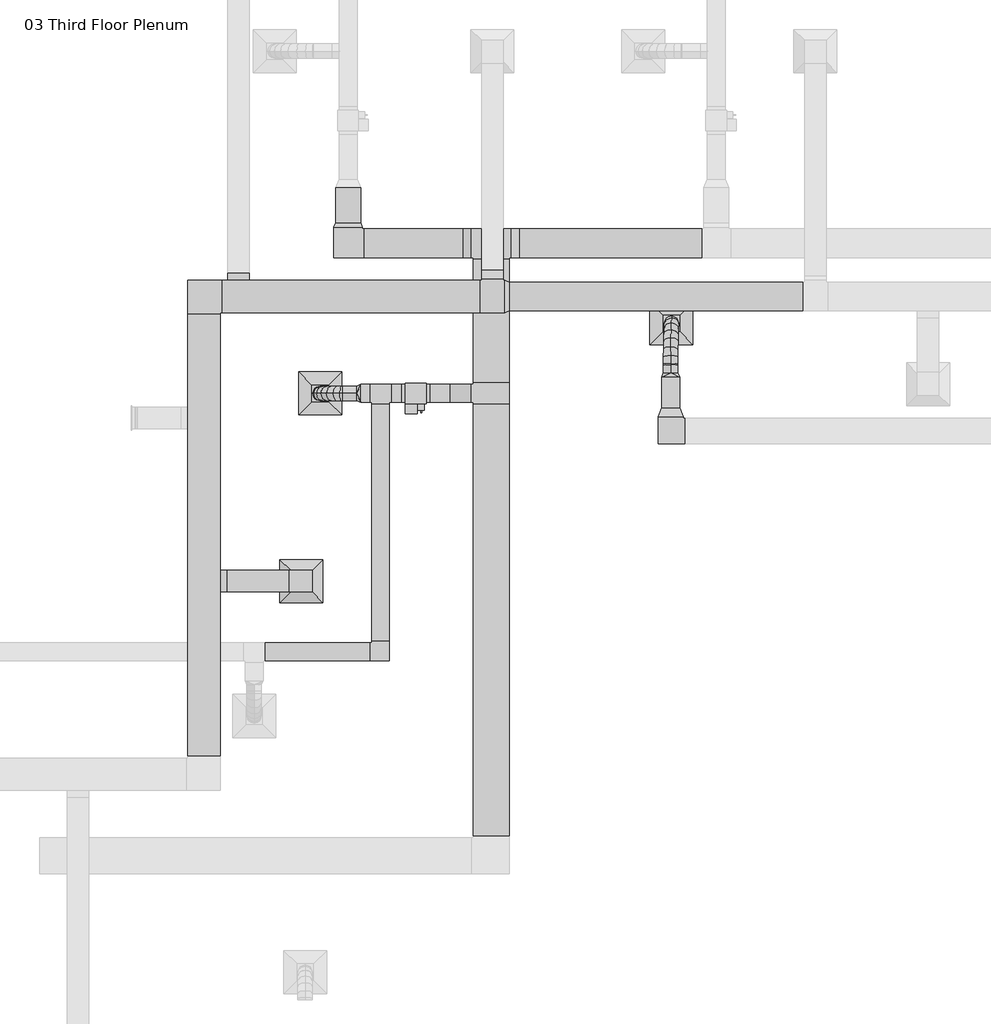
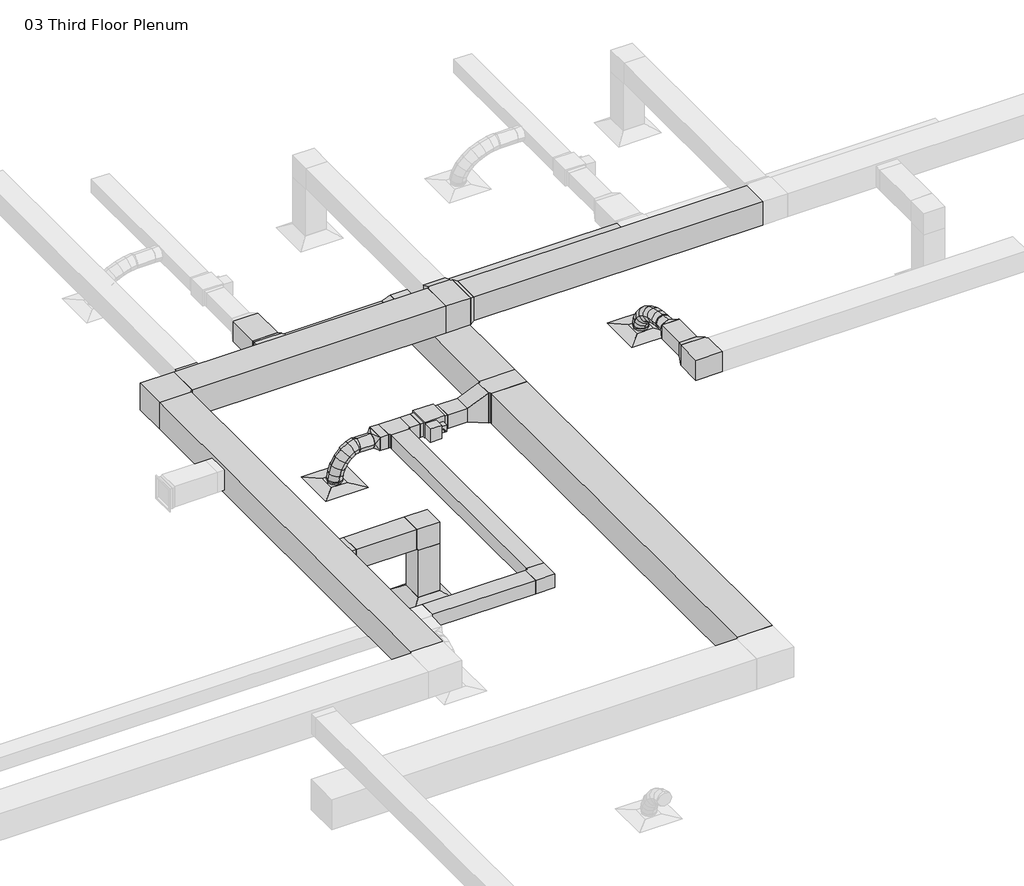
# One storey, part 4 of 9: 20 duct fittings, 20 duct segments, 3 air terminals, 1 proxy.
"""IFC4 building model written with IfcOpenShell, lengths in millimetres."""

from ifc_helpers import new_model, si_unit, point, frame, frame_2d, origin, place, context, project, spatial, polyline, circle_curve, ellipse_curve, trimmed, segment, composite_curve, outline, extrude, transform, mapped, element, save
from ifc_brep_helpers import plane_surface, cylinder_surface, advanced_brep
from components import return_diffuser_d30_returndiffuser_24x24_12x12_connection_ff543d60, supply_diffuser_rectangular_face_round_neck_d30_6390248a, bcn6785_vav_d30_vav1_8c327968, rectangular_elbow_mitered_standard_f09b78ec, rectangular_elbow_mitered_standard_f5573d14, rectangular_elbow_mitered_standard_452c98c7, rectangular_elbow_mitered_standard_3a774ab6, rectangular_elbow_mitered_standard_4ff1c4e8, rectangular_takeoff_standard_087f681d, rectangular_takeoff_standard_e60ef6aa, rectangular_tee_standard_b316833c, rectangular_tee_standard_6ecaa18e, rectangular_tee_standard_fc6ba10c, rectangular_tee_standard_d8c1cff5, rectangular_transition_angle_45_degree_183635ce, rectangular_transition_angle_45_degree_6fcfed4c, rectangular_transition_angle_45_degree_43c6b1ce, rectangular_transition_angle_45_degree_e9be1a90, rectangular_transition_angle_45_degree_58881a6c, rectangular_transition_angle_45_degree_6252f190, rectangular_to_round_transition_angle_45_degree_e9430680

model = new_model("IFC4")

# Units and contexts
model_context = context("Model", 3, world=origin())
ifc_project = project(units=[si_unit("LENGTHUNIT", "METRE", prefix="MILLI")], contexts=[model_context])

# Site, building, storey
site = spatial("IfcSite", under=ifc_project)
building = spatial("IfcBuilding", under=site)
storey = spatial("IfcBuildingStorey", under=building, Name="03 Third Floor Plenum", Elevation=7620.0)

# Air terminals
placement = place(None, origin())
return_diffuser_d30_returndiffuser_24x24_12x12_connection_shape = return_diffuser_d30_returndiffuser_24x24_12x12_connection_ff543d60(model_context)
element("IfcAirTerminal", 1, ObjectType="Return Diffuser : D30_ReturnDiffuser_24x24 12x12 Connection", at=placement, inside=storey, context=model_context, shape_type="MappedRepresentation", body=[
    mapped(return_diffuser_d30_returndiffuser_24x24_12x12_connection_shape, transform((-6594.6439747, 2535.164804, 7620.0), x_axis=(1.0, 0.0, 0.0), y_axis=(0.0, 1.0, 0.0), z_axis=(0.0, 0.0, 1.0))),
])
supply_diffuser_rectangular_face_round_neck_d30_shape = supply_diffuser_rectangular_face_round_neck_d30_6390248a(model_context)
element("IfcAirTerminal", 2, ObjectType="Supply Diffuser - Rectangular Face Round Neck : D30_SupplyDiffuser_24x24 8 Neck", at=placement, inside=storey, context=model_context, shape_type="MappedRepresentation", body=[
    mapped(supply_diffuser_rectangular_face_round_neck_d30_shape, transform((-6329.1542617, 5190.9234175, 7620.0), x_axis=(1.0, 0.0, 0.0), y_axis=(0.0, 1.0, 0.0), z_axis=(0.0, 0.0, 1.0))),
])
element("IfcAirTerminal", 3, ObjectType="Supply Diffuser - Rectangular Face Round Neck : D30_SupplyDiffuser_24x24 8 Neck", at=placement, inside=storey, context=model_context, shape_type="MappedRepresentation", body=[
    mapped(supply_diffuser_rectangular_face_round_neck_d30_shape, transform((-1354.82907, 6185.4921675, 7620.0), x_axis=(1.0, 0.0, 0.0), y_axis=(0.0, 1.0, 0.0), z_axis=(0.0, 0.0, 1.0))),
])

# Proxy
bcn6785_vav_d30_vav1_shape = bcn6785_vav_d30_vav1_8c327968(model_context)
element("IfcBuildingElementProxy", 4, Name="BCN6785_VAV : D30_VAV1", ObjectType="BCN6785_VAV : D30_VAV1", at=placement, inside=storey, context=model_context, shape_type="MappedRepresentation", body=[
    mapped(bcn6785_vav_d30_vav1_shape, transform((-5121.298366, 5190.9101985, 7956.55), x_axis=(1.0, 0.0, 0.0), y_axis=(0.0, 1.0, 0.0), z_axis=(0.0, 0.0, 1.0))),
])

# Duct fittings
rectangular_elbow_mitered_standard_shape = rectangular_elbow_mitered_standard_f09b78ec(model_context)
element("IfcDuctFitting", 5, ObjectType="Rectangular Elbow - Mitered : Standard", at=placement, inside=storey, context=model_context, shape_type="MappedRepresentation", body=[
    mapped(rectangular_elbow_mitered_standard_shape, transform((-5473.723366, 1533.3101985, 8077.2), x_axis=(1.0, 0.0, 0.0), y_axis=(0.0, 1.0, 0.0), z_axis=(0.0, 0.0, 1.0))),
])
rectangular_elbow_mitered_standard_2_shape = rectangular_elbow_mitered_standard_f5573d14(model_context)
element("IfcDuctFitting", 6, ObjectType="Rectangular Elbow - Mitered : Standard", at=placement, inside=storey, context=model_context, shape_type="MappedRepresentation", body=[
    mapped(rectangular_elbow_mitered_standard_2_shape, transform((-5932.510866, 7316.8809317, 8077.2), x_axis=(0.0, -1.0, 0.0), y_axis=(1.0, 0.0, 0.0), z_axis=(0.0, 0.0, 1.0))),
])
rectangular_elbow_mitered_standard_3_shape = rectangular_elbow_mitered_standard_452c98c7(model_context)
element("IfcDuctFitting", 7, ObjectType="Rectangular Elbow - Mitered : Standard", at=placement, inside=storey, context=model_context, shape_type="MappedRepresentation", body=[
    mapped(rectangular_elbow_mitered_standard_3_shape, transform((-1367.52907, 4659.6636656, 8077.2), x_axis=(0.0, -1.0, 0.0), y_axis=(1.0, 0.0, 0.0), z_axis=(0.0, 0.0, 1.0))),
])
rectangular_elbow_mitered_standard_4_shape = rectangular_elbow_mitered_standard_3a774ab6(model_context)
element("IfcDuctFitting", 8, ObjectType="Rectangular Elbow - Mitered : Standard", at=placement, inside=storey, context=model_context, shape_type="MappedRepresentation", body=[
    mapped(rectangular_elbow_mitered_standard_4_shape, transform((-7972.5142705, 6562.5101985, 8610.6), x_axis=(-1.0, 0.0, 0.0), y_axis=(0.0, -1.0, 0.0), z_axis=(0.0, 0.0, 1.0))),
])
rectangular_elbow_mitered_standard_5_shape = rectangular_elbow_mitered_standard_4ff1c4e8(model_context)
element("IfcDuctFitting", 9, ObjectType="Rectangular Elbow - Mitered : Standard", at=placement, inside=storey, context=model_context, shape_type="MappedRepresentation", body=[
    mapped(rectangular_elbow_mitered_standard_5_shape, transform((-6594.6439747, 2535.164804, 8610.6), x_axis=(0.0, 0.0, 1.0), y_axis=(-1.0, 0.0, 0.0), z_axis=(0.0, -1.0, 0.0))),
])
rectangular_takeoff_standard_shape = rectangular_takeoff_standard_087f681d(model_context)
element("IfcDuctFitting", 10, ObjectType="Rectangular Takeoff : Standard", at=placement, inside=storey, context=model_context, shape_type="MappedRepresentation", body=[
    mapped(rectangular_takeoff_standard_shape, transform((-7483.9216887, 6791.1101985, 8610.6), x_axis=(0.0, 1.0, 0.0), y_axis=(1.0, 0.0, 0.0), z_axis=(0.0, 0.0, -1.0))),
])
rectangular_takeoff_standard_2_shape = rectangular_takeoff_standard_e60ef6aa(model_context)
element("IfcDuctFitting", 11, ObjectType="Rectangular Takeoff : Standard", at=placement, inside=storey, context=model_context, shape_type="MappedRepresentation", body=[
    mapped(rectangular_takeoff_standard_2_shape, transform((-7743.9142705, 2535.164804, 8610.6), x_axis=(1.0, 0.0, 0.0), y_axis=(0.0, -1.0, 0.0), z_axis=(0.0, 0.0, -1.0))),
])
rectangular_tee_standard_shape = rectangular_tee_standard_b316833c(model_context)
element("IfcDuctFitting", 12, ObjectType="Rectangular Tee : Standard", at=placement, inside=storey, context=model_context, shape_type="MappedRepresentation", body=[
    mapped(rectangular_tee_standard_shape, transform((-5473.723366, 5190.9101985, 8077.2), x_axis=(1.0, 0.0, 0.0), y_axis=(0.0, 1.0, 0.0), z_axis=(0.0, 0.0, 1.0))),
])
rectangular_tee_standard_2_shape = rectangular_tee_standard_6ecaa18e(model_context)
element("IfcDuctFitting", 13, ObjectType="Rectangular Tee : Standard", at=placement, inside=storey, context=model_context, shape_type="MappedRepresentation", body=[
    mapped(rectangular_tee_standard_2_shape, transform((-3908.2167617, 7316.8809317, 8077.2), x_axis=(1.0, 0.0, 0.0), y_axis=(0.0, 1.0, 0.0), z_axis=(0.0, 0.0, 1.0))),
])
rectangular_tee_standard_3_shape = rectangular_tee_standard_fc6ba10c(model_context)
element("IfcDuctFitting", 14, ObjectType="Rectangular Tee : Standard", at=placement, inside=storey, context=model_context, shape_type="MappedRepresentation", body=[
    mapped(rectangular_tee_standard_3_shape, transform((-3908.2167617, 5190.9101985, 8077.2), x_axis=(0.0, -1.0, 0.0), y_axis=(1.0, 0.0, 0.0), z_axis=(0.0, 0.0, 1.0))),
])
rectangular_tee_standard_4_shape = rectangular_tee_standard_d8c1cff5(model_context)
element("IfcDuctFitting", 15, ObjectType="Rectangular Tee : Standard", at=placement, inside=storey, context=model_context, shape_type="MappedRepresentation", body=[
    mapped(rectangular_tee_standard_4_shape, transform((-3890.7542617, 6562.5101985, 8610.6), x_axis=(-1.0, 0.0, 0.0), y_axis=(0.0, -1.0, 0.0), z_axis=(0.0, 0.0, 1.0))),
])
rectangular_transition_angle_45_degree_shape = rectangular_transition_angle_45_degree_183635ce(model_context)
element("IfcDuctFitting", 16, ObjectType="Rectangular Transition - Angle : 45 Degree", at=placement, inside=storey, context=model_context, shape_type="MappedRepresentation", body=[
    mapped(rectangular_transition_angle_45_degree_shape, transform((-1367.52907, 4862.8636656, 8077.2), x_axis=(0.0, 1.0, 0.0), y_axis=(-1.0, 0.0, 0.0), z_axis=(0.0, 0.0, 1.0))),
])
rectangular_transition_angle_45_degree_2_shape = rectangular_transition_angle_45_degree_6fcfed4c(model_context)
element("IfcDuctFitting", 17, ObjectType="Rectangular Transition - Angle : 45 Degree", at=placement, inside=storey, context=model_context, shape_type="MappedRepresentation", body=[
    mapped(rectangular_transition_angle_45_degree_2_shape, transform((-5932.510866, 7545.4809317, 8077.2), x_axis=(0.0, 1.0, 0.0), y_axis=(-1.0, 0.0, 0.0), z_axis=(0.0, 0.0, 1.0))),
])
rectangular_transition_angle_45_degree_3_shape = rectangular_transition_angle_45_degree_43c6b1ce(model_context)
element("IfcDuctFitting", 18, ObjectType="Rectangular Transition - Angle : 45 Degree", at=placement, inside=storey, context=model_context, shape_type="MappedRepresentation", body=[
    mapped(rectangular_transition_angle_45_degree_3_shape, transform((-4187.6167617, 7316.8809317, 8077.2), x_axis=(-1.0, 0.0, 0.0), y_axis=(0.0, -1.0, 0.0), z_axis=(0.0, 0.0, 1.0))),
])
element("IfcDuctFitting", 19, ObjectType="Rectangular Transition - Angle : 45 Degree", at=placement, inside=storey, context=model_context, shape_type="MappedRepresentation", body=[
    mapped(rectangular_transition_angle_45_degree_3_shape, transform((-3628.8167617, 7316.8809317, 8077.2), x_axis=(1.0, 0.0, 0.0), y_axis=(0.0, 1.0, 0.0), z_axis=(0.0, 0.0, 1.0))),
])
rectangular_transition_angle_45_degree_4_shape = rectangular_transition_angle_45_degree_e9be1a90(model_context)
element("IfcDuctFitting", 20, ObjectType="Rectangular Transition - Angle : 45 Degree", at=placement, inside=storey, context=model_context, shape_type="MappedRepresentation", body=[
    mapped(rectangular_transition_angle_45_degree_4_shape, transform((-4187.6167617, 5190.9101985, 8077.2), x_axis=(-1.0, 0.0, 0.0), y_axis=(0.0, -1.0, 0.0), z_axis=(0.0, 0.0, 1.0))),
])
rectangular_transition_angle_45_degree_5_shape = rectangular_transition_angle_45_degree_58881a6c(model_context)
element("IfcDuctFitting", 21, ObjectType="Rectangular Transition - Angle : 45 Degree", at=placement, inside=storey, context=model_context, shape_type="MappedRepresentation", body=[
    mapped(rectangular_transition_angle_45_degree_5_shape, transform((-3890.7542617, 6816.5101985, 8610.6), x_axis=(0.0, 1.0, 0.0), y_axis=(-1.0, 0.0, 0.0), z_axis=(0.0, 0.0, 1.0))),
])
rectangular_transition_angle_45_degree_6_shape = rectangular_transition_angle_45_degree_6252f190(model_context)
element("IfcDuctFitting", 22, ObjectType="Rectangular Transition - Angle : 45 Degree", at=placement, inside=storey, context=model_context, shape_type="MappedRepresentation", body=[
    mapped(rectangular_transition_angle_45_degree_6_shape, transform((-3712.9542617, 6562.5101985, 8610.6), x_axis=(1.0, 0.0, 0.0), y_axis=(0.0, 1.0, 0.0), z_axis=(0.0, 0.0, 1.0))),
])
rectangular_to_round_transition_angle_45_degree_shape = rectangular_to_round_transition_angle_45_degree_e9430680(model_context)
element("IfcDuctFitting", 23, ObjectType="Rectangular to Round Transition - Angle : 45 Degree", at=placement, inside=storey, context=model_context, shape_type="MappedRepresentation", body=[
    mapped(rectangular_to_round_transition_angle_45_degree_shape, transform((-5749.948366, 5190.9101985, 8077.2), x_axis=(-1.0, 0.0, 0.0), y_axis=(0.0, -1.0, 0.0), z_axis=(0.0, 0.0, 1.0))),
])
element("IfcDuctFitting", 24, ObjectType="Rectangular to Round Transition - Angle : 45 Degree", at=placement, inside=storey, context=model_context, shape_type="MappedRepresentation", body=[
    mapped(rectangular_to_round_transition_angle_45_degree_shape, transform((-1367.52907, 5421.6636656, 8077.2), x_axis=(0.0, 1.0, 0.0), y_axis=(-1.0, 0.0, 0.0), z_axis=(0.0, 0.0, 1.0))),
])

# Duct segments
element("IfcDuctSegment", 25, ObjectType="Flex - Round", at=placement, inside=storey, context=model_context, shape_type="AdvancedBrep", body=[
    advanced_brep(
    [(-6014.4693904, 5089.3101985, 8077.2), (-6014.4693904, 5190.9101985, 7975.6), (-6014.4693904, 5292.5101985, 8077.2), (-6014.4693904, 5190.9101985, 8178.8), (-6036.1583736, 5089.3101985, 8077.2), (-6021.4165161, 5190.9101985, 7975.6), (-6036.1567724, 5292.5101985, 8077.2), (-6050.8986299, 5190.9101985, 8178.8), (-6329.157635, 5089.3234175, 7673.975), (-6430.7542616, 5190.9267909, 7673.975), (-6329.1508883, 5292.5234174, 7673.975), (-6227.5542617, 5190.9200441, 7673.975), (-6096.9812686, 5089.3111777, 8059.1709905), (-6053.9833624, 5190.9107228, 7965.9465959), (-6096.9768132, 5292.5111777, 8059.1718365), (-6139.9747194, 5190.9116326, 8152.396231), (-6171.8331166, 5089.3136257, 8010.5469164), (-6105.2605505, 5190.9123998, 7932.6367197), (-6171.8267271, 5292.5136256, 8010.5490188), (-6238.3992932, 5190.9148515, 8088.4592155), (-6235.7510675, 5089.3168081, 7939.5216216), (-6153.2427601, 5190.9147888, 7879.3191379), (-6235.7438502, 5292.5168079, 7939.5246439), (-6318.2521576, 5190.9188272, 7999.7271277), (-6285.4607107, 5089.3199904, 7854.2888262), (-6192.8547337, 5190.9173247, 7811.3999369), (-6285.4534441, 5292.5199903, 7854.291933), (-6378.0594212, 5190.922656, 7897.1808223), (-6317.6876871, 5089.3224384, 7763.0420482), (-6218.6614451, 5190.9192849, 7738.3313612), (-6317.6807193, 5292.5224382, 7763.0443088), (-6416.7069613, 5190.9255917, 7787.7549958), (-6329.157635, 5089.3234175, 7686.9513296), (-6227.5542617, 5190.9200441, 7679.3371258), (-6329.1508883, 5292.5234174, 7686.952124), (-6430.7542616, 5190.9267909, 7694.5663278)],
    [
        (0, 1, circle_curve(frame((-6014.4693904, 5190.9101985, 8077.2), z_axis=(1.0, 0.0, 0.0), x_axis=(0.0, -1.0, 0.0)), 101.6)),
        (1, 2, circle_curve(frame((-6014.4693904, 5190.9101985, 8077.2), z_axis=(1.0, 0.0, 0.0), x_axis=(0.0, -1.0, 0.0)), 101.6)),
        (2, 3, circle_curve(frame((-6014.4693904, 5190.9101985, 8077.2), z_axis=(1.0, 0.0, 0.0), x_axis=(0.0, -1.0, 0.0)), 101.6)),
        (3, 0, circle_curve(frame((-6014.4693904, 5190.9101985, 8077.2), z_axis=(1.0, 0.0, 0.0), x_axis=(0.0, -1.0, 0.0)), 101.6)),
        (0, 4),
        (4, 5, ellipse_curve(frame((-6036.157573, 5190.9101985, 8077.2), z_axis=(0.9896378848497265, -7.798530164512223e-06, 0.14358571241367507), x_axis=(0.14358571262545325, 5.374992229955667e-05, -0.9896378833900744)), 102.6638143, 101.6)),
        (5, 1),
        (5, 6, ellipse_curve(frame((-6036.157573, 5190.9101985, 8077.2), z_axis=(0.9896378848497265, -7.798530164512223e-06, 0.14358571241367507), x_axis=(0.14358571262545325, 5.374992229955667e-05, -0.9896378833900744)), 102.6638143, 101.6)),
        (6, 2),
        (6, 7, ellipse_curve(frame((-6036.157573, 5190.9101985, 8077.2), z_axis=(0.9896378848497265, -7.798530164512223e-06, 0.14358571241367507), x_axis=(0.14358571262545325, 5.374992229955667e-05, -0.9896378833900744)), 102.6638143, 101.6)),
        (7, 3),
        (7, 4, ellipse_curve(frame((-6036.157573, 5190.9101985, 8077.2), z_axis=(0.9896378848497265, -7.798530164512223e-06, 0.14358571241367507), x_axis=(0.14358571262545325, 5.374992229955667e-05, -0.9896378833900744)), 102.6638143, 101.6)),
        (8, 9, circle_curve(frame((-6329.1542617, 5190.9234175, 7673.975), z_axis=(0.0, 0.0, -1.0), x_axis=(-3.320253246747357e-05, -0.9999999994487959, 0.0)), 101.6)),
        (9, 10, circle_curve(frame((-6329.1542617, 5190.9234175, 7673.975), z_axis=(0.0, 0.0, -1.0), x_axis=(-3.320253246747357e-05, -0.9999999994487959, 0.0)), 101.6)),
        (10, 11, circle_curve(frame((-6329.1542617, 5190.9234175, 7673.975), z_axis=(0.0, 0.0, -1.0), x_axis=(-3.320253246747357e-05, -0.9999999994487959, 0.0)), 101.6)),
        (11, 8, circle_curve(frame((-6329.1542617, 5190.9234175, 7673.975), z_axis=(0.0, 0.0, -1.0), x_axis=(-3.320253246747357e-05, -0.9999999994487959, 0.0)), 101.6)),
        (4, 12),
        (12, 13, ellipse_curve(frame((-6096.9790409, 5190.9111777, 8059.1714135), z_axis=(0.9080748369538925, -2.165461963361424e-05, 0.4188079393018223), x_axis=(0.4188079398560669, 4.178745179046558e-05, -0.9080748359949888)), 102.6620425, 101.6)),
        (13, 5),
        (13, 14, ellipse_curve(frame((-6096.9790409, 5190.9111777, 8059.1714135), z_axis=(0.9080748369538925, -2.165461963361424e-05, 0.4188079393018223), x_axis=(0.4188079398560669, 4.178745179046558e-05, -0.9080748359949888)), 102.6620425, 101.6)),
        (14, 6),
        (14, 15, ellipse_curve(frame((-6096.9790409, 5190.9111777, 8059.1714135), z_axis=(0.9080748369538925, -2.165461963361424e-05, 0.4188079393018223), x_axis=(0.4188079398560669, 4.178745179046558e-05, -0.9080748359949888)), 102.6620425, 101.6)),
        (15, 7),
        (15, 12, ellipse_curve(frame((-6096.9790409, 5190.9111777, 8059.1714135), z_axis=(0.9080748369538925, -2.165461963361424e-05, 0.4188079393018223), x_axis=(0.4188079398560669, 4.178745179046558e-05, -0.9080748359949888)), 102.6620425, 101.6)),
        (12, 16),
        (16, 17, ellipse_curve(frame((-6171.8299218, 5190.9136257, 8010.5479676), z_axis=(0.7602764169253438, -3.062773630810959e-05, 0.6495996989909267), x_axis=(0.6495996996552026, 2.2511495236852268e-05, -0.7602764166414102)), 102.477528, 101.6)),
        (17, 13),
        (17, 18, ellipse_curve(frame((-6171.8299218, 5190.9136257, 8010.5479676), z_axis=(0.7602764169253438, -3.062773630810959e-05, 0.6495996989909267), x_axis=(0.6495996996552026, 2.2511495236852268e-05, -0.7602764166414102)), 102.477528, 101.6)),
        (18, 14),
        (18, 19, ellipse_curve(frame((-6171.8299218, 5190.9136257, 8010.5479676), z_axis=(0.7602764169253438, -3.062773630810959e-05, 0.6495996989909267), x_axis=(0.6495996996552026, 2.2511495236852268e-05, -0.7602764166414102)), 102.477528, 101.6)),
        (19, 15),
        (19, 16, ellipse_curve(frame((-6171.8299218, 5190.9136257, 8010.5479676), z_axis=(0.7602764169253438, -3.062773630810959e-05, 0.6495996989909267), x_axis=(0.6495996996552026, 2.2511495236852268e-05, -0.7602764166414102)), 102.477528, 101.6)),
        (16, 20),
        (20, 21, ellipse_curve(frame((-6235.7474588, 5190.916808, 7939.5231328), z_axis=(0.589455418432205, -3.2951433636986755e-05, 0.807800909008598), x_axis=(0.8078009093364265, -5.149231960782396e-06, -0.5894554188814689)), 102.1349418, 101.6)),
        (21, 17),
        (21, 22, ellipse_curve(frame((-6235.7474588, 5190.916808, 7939.5231328), z_axis=(0.589455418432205, -3.2951433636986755e-05, 0.807800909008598), x_axis=(0.8078009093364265, -5.149231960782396e-06, -0.5894554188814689)), 102.1349418, 101.6)),
        (22, 18),
        (22, 23, ellipse_curve(frame((-6235.7474588, 5190.916808, 7939.5231328), z_axis=(0.589455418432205, -3.2951433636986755e-05, 0.807800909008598), x_axis=(0.8078009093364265, -5.149231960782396e-06, -0.5894554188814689)), 102.1349418, 101.6)),
        (23, 19),
        (23, 20, ellipse_curve(frame((-6235.7474588, 5190.916808, 7939.5231328), z_axis=(0.589455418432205, -3.2951433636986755e-05, 0.807800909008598), x_axis=(0.8078009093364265, -5.149231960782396e-06, -0.5894554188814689)), 102.1349418, 101.6)),
        (20, 24),
        (24, 25, ellipse_curve(frame((-6285.4570774, 5190.9199903, 7854.2903796), z_axis=(0.42027677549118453, -2.8902683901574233e-05, 0.9073959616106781), x_axis=(0.9073959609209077, -3.696100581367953e-05, -0.4202767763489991)), 102.0528497, 101.6)),
        (25, 21),
        (25, 26, ellipse_curve(frame((-6285.4570774, 5190.9199903, 7854.2903796), z_axis=(0.42027677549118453, -2.8902683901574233e-05, 0.9073959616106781), x_axis=(0.9073959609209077, -3.696100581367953e-05, -0.4202767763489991)), 102.0528497, 101.6)),
        (26, 22),
        (26, 27, ellipse_curve(frame((-6285.4570774, 5190.9199903, 7854.2903796), z_axis=(0.42027677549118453, -2.8902683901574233e-05, 0.9073959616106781), x_axis=(0.9073959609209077, -3.696100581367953e-05, -0.4202767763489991)), 102.0528497, 101.6)),
        (27, 23),
        (27, 24, ellipse_curve(frame((-6285.4570774, 5190.9199903, 7854.2903796), z_axis=(0.42027677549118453, -2.8902683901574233e-05, 0.9073959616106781), x_axis=(0.9073959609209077, -3.696100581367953e-05, -0.4202767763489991)), 102.0528497, 101.6)),
        (24, 28),
        (28, 29, ellipse_curve(frame((-6317.6842032, 5190.9224383, 7763.0431785), z_axis=(0.24213102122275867, -1.9096545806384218e-05, 0.9702435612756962), x_axis=(0.9702435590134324, -6.630247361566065e-05, -0.2421310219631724)), 102.0596911, 101.6)),
        (29, 25),
        (29, 30, ellipse_curve(frame((-6317.6842032, 5190.9224383, 7763.0431785), z_axis=(0.24213102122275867, -1.9096545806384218e-05, 0.9702435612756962), x_axis=(0.9702435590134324, -6.630247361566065e-05, -0.2421310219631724)), 102.0596911, 101.6)),
        (30, 26),
        (30, 31, ellipse_curve(frame((-6317.6842032, 5190.9224383, 7763.0431785), z_axis=(0.24213102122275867, -1.9096545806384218e-05, 0.9702435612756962), x_axis=(0.9702435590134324, -6.630247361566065e-05, -0.2421310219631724)), 102.0596911, 101.6)),
        (31, 27),
        (31, 28, ellipse_curve(frame((-6317.6842032, 5190.9224383, 7763.0431785), z_axis=(0.24213102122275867, -1.9096545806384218e-05, 0.9702435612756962), x_axis=(0.9702435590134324, -6.630247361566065e-05, -0.2421310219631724)), 102.0596911, 101.6)),
        (28, 32),
        (32, 33, ellipse_curve(frame((-6329.1542617, 5190.9234175, 7686.9517268), z_axis=(0.07473725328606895, -6.380206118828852e-06, 0.9972032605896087), x_axis=(0.9972032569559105, -8.51297317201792e-05, -0.07473725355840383)), 101.8849456, 101.6)),
        (33, 29),
        (33, 34, ellipse_curve(frame((-6329.1542617, 5190.9234175, 7686.9517268), z_axis=(0.07473725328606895, -6.380206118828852e-06, 0.9972032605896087), x_axis=(0.9972032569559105, -8.51297317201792e-05, -0.07473725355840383)), 101.8849456, 101.6)),
        (34, 30),
        (34, 35, ellipse_curve(frame((-6329.1542617, 5190.9234175, 7686.9517268), z_axis=(0.07473725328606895, -6.380206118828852e-06, 0.9972032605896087), x_axis=(0.9972032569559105, -8.51297317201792e-05, -0.07473725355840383)), 101.8849456, 101.6)),
        (35, 31),
        (35, 32, ellipse_curve(frame((-6329.1542617, 5190.9234175, 7686.9517268), z_axis=(0.07473725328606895, -6.380206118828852e-06, 0.9972032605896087), x_axis=(0.9972032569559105, -8.51297317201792e-05, -0.07473725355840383)), 101.8849456, 101.6)),
        (32, 8),
        (11, 33),
        (10, 34),
        (9, 35),
    ],
    [
        plane_surface(frame((-6014.4693904, 5190.9101985, 7975.6), z_axis=(1.0, 0.0, 0.0), x_axis=(0.0, -1.0, 0.0))),
        cylinder_surface(frame((-6014.4693904, 5190.9101985, 8077.2), z_axis=(1.0, 0.0, 0.0), x_axis=(0.0, -1.0, 0.0)), 101.6),
        plane_surface(frame((-6329.1542617, 5089.3234175, 7673.975), z_axis=(0.0, 0.0, -1.0), x_axis=(-1.0, 0.0, 0.0))),
        cylinder_surface(frame((-6036.157573, 5190.9101985, 8077.2), z_axis=(0.9587662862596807, -1.5435441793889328e-05, 0.284195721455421), x_axis=(-1.5435441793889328e-05, -0.9999999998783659, -2.2395150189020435e-06)), 101.6),
        cylinder_surface(frame((-6096.9790409, 5190.9111777, 8059.1714135), z_axis=(0.8385952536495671, -2.742576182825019e-05, 0.5447549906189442), x_axis=(-2.7603929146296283e-05, -0.9999999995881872, -7.851672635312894e-06)), 101.6),
        cylinder_surface(frame((-6171.8299218, 5190.9136257, 8010.5479676), z_axis=(0.6689368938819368, -3.330517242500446e-05, 0.7433191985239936), x_axis=(-3.4508266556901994e-05, -0.999999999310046, -1.3750915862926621e-05)), 101.6),
        cylinder_surface(frame((-6235.7474588, 5190.916808, 7939.5231328), z_axis=(0.5037992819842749, -3.225252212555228e-05, 0.8638207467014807), x_axis=(-3.627939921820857e-05, -0.999999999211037, -1.617810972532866e-05)), 101.6),
        cylinder_surface(frame((-6285.4570774, 5190.9199903, 7854.2903796), z_axis=(0.3330243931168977, -2.5296339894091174e-05, 0.9429182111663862), x_axis=(-3.541812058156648e-05, -0.9999999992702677, -1.4318571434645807e-05)), 101.6),
        cylinder_surface(frame((-6317.6842032, 5190.9224383, 7763.0431785), z_axis=(0.1490564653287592, -1.2724724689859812e-05, 0.9888286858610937), x_axis=(-3.378529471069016e-05, -0.9999999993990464, -7.775672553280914e-06)), 101.6),
        cylinder_surface(frame((-6329.1542617, 5190.9234175, 7686.9517268), z_axis=(0.0, 0.0, 1.0), x_axis=(-3.320253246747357e-05, -0.9999999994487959, 0.0)), 101.6),
    ],
    [
        (0, [[1, 2, 3, 4]]),
        (1, [[-1, 5, 6, 7]]),
        (1, [[-2, -7, 8, 9]]),
        (1, [[-3, -9, 10, 11]]),
        (1, [[-4, -11, 12, -5]]),
        (2, [[13, 14, 15, 16]]),
        (3, [[-6, 17, 18, 19]]),
        (3, [[-8, -19, 20, 21]]),
        (3, [[-10, -21, 22, 23]]),
        (3, [[-12, -23, 24, -17]]),
        (4, [[-18, 25, 26, 27]]),
        (4, [[-20, -27, 28, 29]]),
        (4, [[-22, -29, 30, 31]]),
        (4, [[-24, -31, 32, -25]]),
        (5, [[-26, 33, 34, 35]]),
        (5, [[-28, -35, 36, 37]]),
        (5, [[-30, -37, 38, 39]]),
        (5, [[-32, -39, 40, -33]]),
        (6, [[-34, 41, 42, 43]]),
        (6, [[-36, -43, 44, 45]]),
        (6, [[-38, -45, 46, 47]]),
        (6, [[-40, -47, 48, -41]]),
        (7, [[-42, 49, 50, 51]]),
        (7, [[-44, -51, 52, 53]]),
        (7, [[-46, -53, 54, 55]]),
        (7, [[-48, -55, 56, -49]]),
        (8, [[-50, 57, 58, 59]]),
        (8, [[-52, -59, 60, 61]]),
        (8, [[-54, -61, 62, 63]]),
        (8, [[-56, -63, 64, -57]]),
        (9, [[-58, 65, -16, 66]]),
        (9, [[-60, -66, -15, 67]]),
        (9, [[-62, -67, -14, 68]]),
        (9, [[-64, -68, -13, -65]]),
    ],
),
])
element("IfcDuctSegment", 26, ObjectType="Flex - Round", at=placement, inside=storey, context=model_context, shape_type="AdvancedBrep", body=[
    advanced_brep(
    [(-1469.12907, 5599.4636656, 8077.2), (-1367.52907, 5599.4636656, 7975.6), (-1265.92907, 5599.4636656, 8077.2), (-1367.52907, 5599.4636656, 8178.8), (-1469.12907, 5609.167919, 8077.2), (-1367.52907, 5603.6788258, 7975.6), (-1265.92907, 5608.4389182, 8077.2), (-1367.52907, 5613.9280114, 8178.8), (-1456.4018157, 6187.8453191, 7673.975), (-1352.4759184, 6287.0649132, 7673.975), (-1253.2563242, 6183.1390159, 7673.975), (-1357.1822216, 6083.9194217, 7673.975), (-1468.4198301, 5707.7611195, 8067.2286374), (-1366.9158959, 5688.917673, 7966.9792488), (-1265.2313128, 5705.4358756, 8067.3900757), (-1366.7352469, 5724.2793221, 8167.6394643), (-1466.5942297, 5821.2220305, 8038.4862765), (-1365.3324897, 5787.3262406, 7942.0500063), (-1263.4283417, 5817.4903774, 8039.0039918), (-1364.6900818, 5851.3861674, 8135.4402621), (-1464.1039831, 5931.9675657, 7992.7357134), (-1363.1687228, 5883.5526607, 7902.2974971), (-1260.9570723, 5927.3919649, 7993.6020757), (-1361.8923326, 5975.8068698, 8084.040292), (-1461.3955377, 6032.0042118, 7931.684367), (-1360.8786161, 5968.1379334, 7850.6759666), (-1258.2596868, 6027.020112, 7932.800032), (-1358.7766084, 6090.8863904, 8013.8084325), (-1458.9140094, 6113.313661, 7857.045612), (-1358.925392, 6032.1370351, 7791.9274038), (-1255.779699, 6108.2790873, 7858.2076099), (-1355.7683165, 6189.4557132, 7923.325818), (-1457.102731, 6167.9020349, 7770.5463085), (-1357.629355, 6071.1970443, 7730.0339393), (-1253.962406, 6163.0487302, 7771.4210725), (-1353.435782, 6259.7537208, 7811.9334417), (-1456.4018157, 6187.8453191, 7694.3621843), (-1357.1822216, 6083.9194217, 7681.4339606), (-1253.2563242, 6183.1390159, 7694.6753967), (-1352.4759184, 6287.0649132, 7707.6036204)],
    [
        (0, 1, circle_curve(frame((-1367.52907, 5599.4636656, 8077.2), z_axis=(0.0, -1.0, 0.0), x_axis=(-1.0, 0.0, 0.0)), 101.6)),
        (1, 2, circle_curve(frame((-1367.52907, 5599.4636656, 8077.2), z_axis=(0.0, -1.0, 0.0), x_axis=(-1.0, 0.0, 0.0)), 101.6)),
        (2, 3, circle_curve(frame((-1367.52907, 5599.4636656, 8077.2), z_axis=(0.0, -1.0, 0.0), x_axis=(-1.0, 0.0, 0.0)), 101.6)),
        (3, 0, circle_curve(frame((-1367.52907, 5599.4636656, 8077.2), z_axis=(0.0, -1.0, 0.0), x_axis=(-1.0, 0.0, 0.0)), 101.6)),
        (0, 4),
        (4, 5, ellipse_curve(frame((-1367.52907, 5608.8034186, 8077.2), z_axis=(-0.0035830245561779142, -0.9987239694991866, 0.05037454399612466), x_axis=(0.07085790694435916, -0.05050180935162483, -0.9962071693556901)), 101.7298103, 101.6)),
        (5, 1),
        (5, 6, ellipse_curve(frame((-1367.52907, 5608.8034186, 8077.2), z_axis=(-0.0035830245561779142, -0.9987239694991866, 0.05037454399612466), x_axis=(0.07085790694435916, -0.05050180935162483, -0.9962071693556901)), 101.7298103, 101.6)),
        (6, 2),
        (6, 7, ellipse_curve(frame((-1367.52907, 5608.8034186, 8077.2), z_axis=(-0.0035830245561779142, -0.9987239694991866, 0.05037454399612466), x_axis=(0.07085790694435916, -0.05050180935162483, -0.9962071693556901)), 101.7298103, 101.6)),
        (7, 3),
        (7, 4, ellipse_curve(frame((-1367.52907, 5608.8034186, 8077.2), z_axis=(-0.0035830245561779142, -0.9987239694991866, 0.05037454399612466), x_axis=(0.07085790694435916, -0.05050180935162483, -0.9962071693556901)), 101.7298103, 101.6)),
        (8, 9, circle_curve(frame((-1354.82907, 6185.4921675, 7673.975), z_axis=(0.0, 0.0, -1.0), x_axis=(-0.9997317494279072, 0.02316094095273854, 0.0)), 101.6)),
        (9, 10, circle_curve(frame((-1354.82907, 6185.4921675, 7673.975), z_axis=(0.0, 0.0, -1.0), x_axis=(-0.9997317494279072, 0.02316094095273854, 0.0)), 101.6)),
        (10, 11, circle_curve(frame((-1354.82907, 6185.4921675, 7673.975), z_axis=(0.0, 0.0, -1.0), x_axis=(-0.9997317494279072, 0.02316094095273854, 0.0)), 101.6)),
        (11, 8, circle_curve(frame((-1354.82907, 6185.4921675, 7673.975), z_axis=(0.0, 0.0, -1.0), x_axis=(-0.9997317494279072, 0.02316094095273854, 0.0)), 101.6)),
        (4, 12),
        (12, 13, ellipse_curve(frame((-1366.8255714, 5706.5984975, 8067.3093566), z_axis=(-0.011407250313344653, -0.9847588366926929, 0.17355088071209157), x_axis=(0.05724654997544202, -0.1739206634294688, -0.9830943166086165)), 101.8770918, 101.6)),
        (13, 5),
        (13, 14, ellipse_curve(frame((-1366.8255714, 5706.5984975, 8067.3093566), z_axis=(-0.011407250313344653, -0.9847588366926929, 0.17355088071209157), x_axis=(0.05724654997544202, -0.1739206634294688, -0.9830943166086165)), 101.8770918, 101.6)),
        (14, 6),
        (14, 15, ellipse_curve(frame((-1366.8255714, 5706.5984975, 8067.3093566), z_axis=(-0.011407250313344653, -0.9847588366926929, 0.17355088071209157), x_axis=(0.05724654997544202, -0.1739206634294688, -0.9830943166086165)), 101.8770918, 101.6)),
        (15, 7),
        (15, 12, ellipse_curve(frame((-1366.8255714, 5706.5984975, 8067.3093566), z_axis=(-0.011407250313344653, -0.9847588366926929, 0.17355088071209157), x_axis=(0.05724654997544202, -0.1739206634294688, -0.9830943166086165)), 101.8770918, 101.6)),
        (12, 16),
        (16, 17, ellipse_curve(frame((-1365.0112857, 5819.356204, 8038.7451342), z_axis=(-0.01823389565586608, -0.9490998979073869, 0.31444698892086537), x_axis=(0.03608996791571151, -0.3149190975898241, -0.9484321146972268)), 101.8629094, 101.6)),
        (17, 13),
        (17, 18, ellipse_curve(frame((-1365.0112857, 5819.356204, 8038.7451342), z_axis=(-0.01823389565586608, -0.9490998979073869, 0.31444698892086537), x_axis=(0.03608996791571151, -0.3149190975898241, -0.9484321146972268)), 101.8629094, 101.6)),
        (18, 14),
        (18, 19, ellipse_curve(frame((-1365.0112857, 5819.356204, 8038.7451342), z_axis=(-0.01823389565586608, -0.9490998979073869, 0.31444698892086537), x_axis=(0.03608996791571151, -0.3149190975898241, -0.9484321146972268)), 101.8629094, 101.6)),
        (19, 15),
        (19, 16, ellipse_curve(frame((-1365.0112857, 5819.356204, 8038.7451342), z_axis=(-0.01823389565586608, -0.9490998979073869, 0.31444698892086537), x_axis=(0.03608996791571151, -0.3149190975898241, -0.9484321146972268)), 101.8629094, 101.6)),
        (16, 20),
        (20, 21, ellipse_curve(frame((-1362.5305277, 5929.6797653, 7993.1688946), z_axis=(-0.022008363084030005, -0.891418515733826, 0.4526462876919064), x_axis=(0.014911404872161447, -0.4529982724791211, -0.8913866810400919)), 101.9105316, 101.6)),
        (21, 17),
        (21, 22, ellipse_curve(frame((-1362.5305277, 5929.6797653, 7993.1688946), z_axis=(-0.022008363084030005, -0.891418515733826, 0.4526462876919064), x_axis=(0.014911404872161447, -0.4529982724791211, -0.8913866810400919)), 101.9105316, 101.6)),
        (22, 18),
        (22, 23, ellipse_curve(frame((-1362.5305277, 5929.6797653, 7993.1688946), z_axis=(-0.022008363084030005, -0.891418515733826, 0.4526462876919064), x_axis=(0.014911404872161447, -0.4529982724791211, -0.8913866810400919)), 101.9105316, 101.6)),
        (23, 19),
        (23, 20, ellipse_curve(frame((-1362.5305277, 5929.6797653, 7993.1688946), z_axis=(-0.022008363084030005, -0.891418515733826, 0.4526462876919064), x_axis=(0.014911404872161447, -0.4529982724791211, -0.8913866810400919)), 101.9105316, 101.6)),
        (20, 24),
        (24, 25, ellipse_curve(frame((-1359.8276122, 6029.5121619, 7932.2421995), z_axis=(-0.022899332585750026, -0.7987093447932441, 0.6012811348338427), x_axis=(-0.0032264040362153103, -0.6013766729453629, -0.7989591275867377)), 102.0830831, 101.6)),
        (25, 21),
        (25, 26, ellipse_curve(frame((-1359.8276122, 6029.5121619, 7932.2421995), z_axis=(-0.022899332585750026, -0.7987093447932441, 0.6012811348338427), x_axis=(-0.0032264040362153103, -0.6013766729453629, -0.7989591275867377)), 102.0830831, 101.6)),
        (26, 22),
        (26, 27, ellipse_curve(frame((-1359.8276122, 6029.5121619, 7932.2421995), z_axis=(-0.022899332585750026, -0.7987093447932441, 0.6012811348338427), x_axis=(-0.0032264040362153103, -0.6013766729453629, -0.7989591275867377)), 102.0830831, 101.6)),
        (27, 23),
        (27, 24, ellipse_curve(frame((-1359.8276122, 6029.5121619, 7932.2421995), z_axis=(-0.022899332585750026, -0.7987093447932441, 0.6012811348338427), x_axis=(-0.0032264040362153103, -0.6013766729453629, -0.7989591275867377)), 102.0830831, 101.6)),
        (24, 28),
        (28, 29, ellipse_curve(frame((-1357.3468542, 6110.7963741, 7857.6266109), z_axis=(-0.020269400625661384, -0.6406750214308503, 0.7675445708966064), x_axis=(-0.018048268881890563, -0.7673427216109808, -0.640983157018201)), 102.4996123, 101.6)),
        (29, 25),
        (29, 30, ellipse_curve(frame((-1357.3468542, 6110.7963741, 7857.6266109), z_axis=(-0.020269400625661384, -0.6406750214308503, 0.7675445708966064), x_axis=(-0.018048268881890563, -0.7673427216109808, -0.640983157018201)), 102.4996123, 101.6)),
        (30, 26),
        (30, 31, ellipse_curve(frame((-1357.3468542, 6110.7963741, 7857.6266109), z_axis=(-0.020269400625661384, -0.6406750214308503, 0.7675445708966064), x_axis=(-0.018048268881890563, -0.7673427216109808, -0.640983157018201)), 102.4996123, 101.6)),
        (31, 27),
        (31, 28, ellipse_curve(frame((-1357.3468542, 6110.7963741, 7857.6266109), z_axis=(-0.020269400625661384, -0.6406750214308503, 0.7675445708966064), x_axis=(-0.018048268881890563, -0.7673427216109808, -0.640983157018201)), 102.4996123, 101.6)),
        (28, 32),
        (32, 33, ellipse_curve(frame((-1355.5325685, 6165.4753825, 7770.9836905), z_axis=(-0.01346108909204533, -0.3981040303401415, 0.9172415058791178), x_axis=(-0.028792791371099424, -0.9167899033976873, -0.39833057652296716)), 102.8090539, 101.6)),
        (33, 29),
        (33, 34, ellipse_curve(frame((-1355.5325685, 6165.4753825, 7770.9836905), z_axis=(-0.01346108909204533, -0.3981040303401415, 0.9172415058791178), x_axis=(-0.028792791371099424, -0.9167899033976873, -0.39833057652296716)), 102.8090539, 101.6)),
        (34, 30),
        (34, 35, ellipse_curve(frame((-1355.5325685, 6165.4753825, 7770.9836905), z_axis=(-0.01346108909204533, -0.3981040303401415, 0.9172415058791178), x_axis=(-0.028792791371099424, -0.9167899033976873, -0.39833057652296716)), 102.8090539, 101.6)),
        (35, 31),
        (35, 32, ellipse_curve(frame((-1355.5325685, 6165.4753825, 7770.9836905), z_axis=(-0.01346108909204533, -0.3981040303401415, 0.9172415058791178), x_axis=(-0.028792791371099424, -0.9167899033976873, -0.39833057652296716)), 102.8090539, 101.6)),
        (32, 36),
        (36, 37, ellipse_curve(frame((-1354.82907, 6185.4921675, 7694.5187905), z_axis=(-0.004486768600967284, -0.12766292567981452, 0.9918074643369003), x_axis=(-0.03483599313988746, -0.9911954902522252, -0.12774174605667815)), 102.4392371, 101.6)),
        (37, 33),
        (37, 38, ellipse_curve(frame((-1354.82907, 6185.4921675, 7694.5187905), z_axis=(-0.004486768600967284, -0.12766292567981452, 0.9918074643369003), x_axis=(-0.03483599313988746, -0.9911954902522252, -0.12774174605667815)), 102.4392371, 101.6)),
        (38, 34),
        (38, 39, ellipse_curve(frame((-1354.82907, 6185.4921675, 7694.5187905), z_axis=(-0.004486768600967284, -0.12766292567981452, 0.9918074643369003), x_axis=(-0.03483599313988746, -0.9911954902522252, -0.12774174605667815)), 102.4392371, 101.6)),
        (39, 35),
        (39, 36, ellipse_curve(frame((-1354.82907, 6185.4921675, 7694.5187905), z_axis=(-0.004486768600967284, -0.12766292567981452, 0.9918074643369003), x_axis=(-0.03483599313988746, -0.9911954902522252, -0.12774174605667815)), 102.4392371, 101.6)),
        (36, 8),
        (11, 37),
        (10, 38),
        (9, 39),
    ],
    [
        plane_surface(frame((-1469.12907, 5599.4636656, 8077.2), z_axis=(0.0, -1.0, 0.0), x_axis=(0.0, 0.0, 1.0))),
        cylinder_surface(frame((-1367.52907, 5599.4636656, 8077.2), z_axis=(0.0, -1.0, 0.0), x_axis=(-1.0, 0.0, 0.0)), 101.6),
        plane_surface(frame((-1354.82907, 6083.8921675, 7673.975), z_axis=(0.0, 0.0, -1.0), x_axis=(-1.0, 0.0, 0.0))),
        cylinder_surface(frame((-1367.52907, 5608.8034186, 8077.2), z_axis=(-0.007156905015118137, -0.9948991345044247, 0.10062052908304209), x_axis=(-0.9999743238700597, 0.007156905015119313, -0.00036098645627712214)), 101.6),
        cylinder_surface(frame((-1366.8255714, 5706.5984975, 8067.3093566), z_axis=(-0.015595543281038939, -0.9692617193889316, 0.24553716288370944), x_axis=(-0.9998763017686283, 0.015618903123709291, -0.0018523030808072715)), 101.6),
        cylinder_surface(frame((-1365.0112857, 5819.356204, 8038.7451342), z_axis=(-0.020778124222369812, -0.9240387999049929, 0.38173363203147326), x_axis=(-0.9997732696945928, 0.020981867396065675, -0.0036291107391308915)), 101.6),
        cylinder_surface(frame((-1362.5305277, 5929.6797653, 7993.1688946), z_axis=(-0.02310447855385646, -0.853365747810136, 0.5208004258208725), x_axis=(-0.9997003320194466, 0.02393610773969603, -0.005129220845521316)), 101.6),
        cylinder_surface(frame((-1359.8276122, 6029.5121619, 7932.2421995), z_axis=(-0.02247745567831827, -0.7364935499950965, 0.6760710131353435), x_axis=(-0.9996687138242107, 0.025038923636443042, -0.005959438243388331)), 101.6),
        cylinder_surface(frame((-1357.3468542, 6110.7963741, 7857.6266109), z_axis=(-0.017705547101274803, -0.5336104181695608, 0.8455450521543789), x_axis=(-0.9996830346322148, 0.024586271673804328, -0.005417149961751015)), 101.6),
        cylinder_surface(frame((-1355.5325685, 6165.4753825, 7770.9836905), z_axis=(-0.008900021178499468, -0.2532340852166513, 0.9673640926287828), x_axis=(-0.9997180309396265, 0.02355127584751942, -0.00303249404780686)), 101.6),
        cylinder_surface(frame((-1354.82907, 6185.4921675, 7694.5187905), z_axis=(0.0, 0.0, 1.0), x_axis=(-0.9997317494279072, 0.02316094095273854, 0.0)), 101.6),
    ],
    [
        (0, [[1, 2, 3, 4]]),
        (1, [[-1, 5, 6, 7]]),
        (1, [[-2, -7, 8, 9]]),
        (1, [[-3, -9, 10, 11]]),
        (1, [[-4, -11, 12, -5]]),
        (2, [[13, 14, 15, 16]]),
        (3, [[-6, 17, 18, 19]]),
        (3, [[-8, -19, 20, 21]]),
        (3, [[-10, -21, 22, 23]]),
        (3, [[-12, -23, 24, -17]]),
        (4, [[-18, 25, 26, 27]]),
        (4, [[-20, -27, 28, 29]]),
        (4, [[-22, -29, 30, 31]]),
        (4, [[-24, -31, 32, -25]]),
        (5, [[-26, 33, 34, 35]]),
        (5, [[-28, -35, 36, 37]]),
        (5, [[-30, -37, 38, 39]]),
        (5, [[-32, -39, 40, -33]]),
        (6, [[-34, 41, 42, 43]]),
        (6, [[-36, -43, 44, 45]]),
        (6, [[-38, -45, 46, 47]]),
        (6, [[-40, -47, 48, -41]]),
        (7, [[-42, 49, 50, 51]]),
        (7, [[-44, -51, 52, 53]]),
        (7, [[-46, -53, 54, 55]]),
        (7, [[-48, -55, 56, -49]]),
        (8, [[-50, 57, 58, 59]]),
        (8, [[-52, -59, 60, 61]]),
        (8, [[-54, -61, 62, 63]]),
        (8, [[-56, -63, 64, -57]]),
        (9, [[-58, 65, 66, 67]]),
        (9, [[-60, -67, 68, 69]]),
        (9, [[-62, -69, 70, 71]]),
        (9, [[-64, -71, 72, -65]]),
        (10, [[-66, 73, -16, 74]]),
        (10, [[-68, -74, -15, 75]]),
        (10, [[-70, -75, -14, 76]]),
        (10, [[-72, -76, -13, -73]]),
    ],
),
])
element("IfcDuctSegment", 27, ObjectType="Mitered Elbows / Taps", at=placement, inside=storey, context=model_context, shape_type="SweptSolid", body=[
    extrude(outline(polyline([(-6772.4439747, 2687.564804), (-6772.4439747, 2382.764804), (-7642.3142705, 2382.764804), (-7642.3142705, 2687.564804), (-6772.4439747, 2687.564804)])), frame((0.0, 0.0, 8458.2), z_axis=(0.0, 0.0, 1.0), x_axis=(1.0, 0.0, 0.0)), (0.0, 0.0, 1.0), 304.8),
])
element("IfcDuctSegment", 28, ObjectType="Mitered Elbows / Taps", at=placement, inside=storey, context=model_context, shape_type="SweptSolid", body=[
    extrude(outline(polyline([(-6747.0439747, 2687.564804), (-6442.2439747, 2687.564804), (-6442.2439747, 2382.764804), (-6747.0439747, 2382.764804), (-6747.0439747, 2687.564804)])), frame((0.0, 0.0, 7721.6), z_axis=(0.0, 0.0, 1.0), x_axis=(1.0, 0.0, 0.0)), (0.0, 0.0, 1.0), 711.2),
])
element("IfcDuctSegment", 29, ObjectType="Mitered Elbows / Tees", at=placement, inside=storey, context=model_context, shape_type="SweptSolid", body=[
    extrude(outline(polyline([(-4310.2588106, 7520.0809317), (-4310.2588106, 7113.6809317), (-5703.910866, 7113.6809317), (-5703.910866, 7520.0809317), (-4310.2588106, 7520.0809317)])), frame((0.0, 0.0, 7899.4), z_axis=(0.0, 0.0, 1.0), x_axis=(1.0, 0.0, 0.0)), (0.0, 0.0, 1.0), 355.6),
])
element("IfcDuctSegment", 30, ObjectType="Mitered Elbows / Tees", at=placement, inside=storey, context=model_context, shape_type="SweptSolid", body=[
    extrude(outline(polyline([(-6110.310866, 8101.2001185), (-5754.710866, 8101.2001185), (-5754.710866, 7606.8019562), (-6110.310866, 7606.8019562), (-6110.310866, 8101.2001185)])), frame((0.0, 0.0, 7924.8), z_axis=(0.0, 0.0, 1.0), x_axis=(1.0, 0.0, 0.0)), (0.0, 0.0, 1.0), 304.8),
])
element("IfcDuctSegment", 31, ObjectType="Mitered Elbows / Tees", at=placement, inside=storey, context=model_context, shape_type="SweptSolid", body=[
    extrude(outline(polyline([(-923.948366, 7520.0809317), (-923.948366, 7113.6809317), (-3506.1747127, 7113.6809317), (-3506.1747127, 7520.0809317), (-923.948366, 7520.0809317)])), frame((0.0, 0.0, 7899.4), z_axis=(0.0, 0.0, 1.0), x_axis=(1.0, 0.0, 0.0)), (0.0, 0.0, 1.0), 355.6),
])
element("IfcDuctSegment", 32, ObjectType="Mitered Elbows / Tees", at=placement, inside=storey, context=model_context, shape_type="SweptSolid", body=[
    extrude(outline(polyline([(-4162.2167617, 5038.5101985), (-3654.2167617, 5038.5101985), (-3654.2167617, -1076.5265825), (-4162.2167617, -1076.5265825), (-4162.2167617, 5038.5101985)])), frame((0.0, 0.0, 7848.6), z_axis=(0.0, 0.0, 1.0), x_axis=(1.0, 0.0, 0.0)), (0.0, 0.0, 1.0), 457.2),
])
element("IfcDuctSegment", 33, ObjectType="Mitered Elbows / Tees", at=placement, inside=storey, context=model_context, shape_type="SweptSolid", body=[
    extrude(outline(polyline([(-4494.2218841, 5317.9101985), (-4494.2218841, 5063.9101985), (-4778.398366, 5063.9101985), (-4778.398366, 5317.9101985), (-4494.2218841, 5317.9101985)])), frame((0.0, 0.0, 7975.6), z_axis=(0.0, 0.0, 1.0), x_axis=(1.0, 0.0, 0.0)), (0.0, 0.0, 1.0), 203.2),
])
element("IfcDuctSegment", 34, ObjectType="Mitered Elbows / Tees", at=placement, inside=storey, context=model_context, shape_type="SweptSolid", body=[
    extrude(outline(polyline([(-3654.2167617, 5343.3101985), (-4162.2167617, 5343.3101985), (-4162.2167617, 7088.2809317), (-3654.2167617, 7088.2809317), (-3654.2167617, 5343.3101985)])), frame((0.0, 0.0, 7848.6), z_axis=(0.0, 0.0, 1.0), x_axis=(1.0, 0.0, 0.0)), (0.0, 0.0, 1.0), 457.2),
])
element("IfcDuctSegment", 35, ObjectType="Mitered Elbows / Tees", at=placement, inside=storey, context=model_context, shape_type="SweptSolid", body=[
    extrude(outline(polyline([(-5626.123366, 5317.9101985), (-5626.123366, 5063.9101985), (-5749.948366, 5063.9101985), (-5749.948366, 5317.9101985), (-5626.123366, 5317.9101985)])), frame((0.0, 0.0, 7975.6), z_axis=(0.0, 0.0, 1.0), x_axis=(1.0, 0.0, 0.0)), (0.0, 0.0, 1.0), 203.2),
])
element("IfcDuctSegment", 36, ObjectType="Mitered Elbows / Tees", at=placement, inside=storey, context=model_context, shape_type="SweptSolid", body=[
    extrude(outline(polyline([(-5600.723366, 5038.5101985), (-5346.723366, 5038.5101985), (-5346.723366, 1685.7101985), (-5600.723366, 1685.7101985), (-5600.723366, 5038.5101985)])), frame((0.0, 0.0, 7975.6), z_axis=(0.0, 0.0, 1.0), x_axis=(1.0, 0.0, 0.0)), (0.0, 0.0, 1.0), 203.2),
])
element("IfcDuctSegment", 37, ObjectType="Mitered Elbows / Tees", at=placement, inside=storey, context=model_context, shape_type="SweptSolid", body=[
    extrude(outline(polyline([(-5172.098366, 5317.9101985), (-5172.098366, 5063.9101985), (-5321.323366, 5063.9101985), (-5321.323366, 5317.9101985), (-5172.098366, 5317.9101985)])), frame((0.0, 0.0, 7975.6), z_axis=(0.0, 0.0, 1.0), x_axis=(1.0, 0.0, 0.0)), (0.0, 0.0, 1.0), 203.2),
])
element("IfcDuctSegment", 38, ObjectType="Mitered Elbows / Tees", at=placement, inside=storey, context=model_context, shape_type="SweptSolid", body=[
    extrude(outline(polyline([(-5626.123366, 1660.3101985), (-5626.123366, 1406.3101985), (-7109.9576996, 1406.3101985), (-7109.9576996, 1660.3101985), (-5626.123366, 1660.3101985)])), frame((0.0, 0.0, 7975.6), z_axis=(0.0, 0.0, 1.0), x_axis=(1.0, 0.0, 0.0)), (0.0, 0.0, 1.0), 203.2),
])
element("IfcDuctSegment", 39, ObjectType="Mitered Elbows / Tees", at=placement, inside=storey, context=model_context, shape_type="SweptSolid", body=[
    extrude(outline(polyline([(-1240.52907, 4985.5057145), (-1494.52907, 4985.5057145), (-1494.52907, 5421.6636656), (-1240.52907, 5421.6636656), (-1240.52907, 4985.5057145)])), frame((0.0, 0.0, 7975.6), z_axis=(0.0, 0.0, 1.0), x_axis=(1.0, 0.0, 0.0)), (0.0, 0.0, 1.0), 203.2),
])
element("IfcDuctSegment", 40, ObjectType="Mitered Elbows / Tees", at=placement, inside=storey, context=model_context, shape_type="SweptSolid", body=[
    extrude(outline(polyline([(-7743.9142705, 52.6843257), (-8201.1142705, 52.6843257), (-8201.1142705, 6308.5101985), (-7743.9142705, 6308.5101985), (-7743.9142705, 52.6843257)])), frame((0.0, 0.0, 8407.4), z_axis=(0.0, 0.0, 1.0), x_axis=(1.0, 0.0, 0.0)), (0.0, 0.0, 1.0), 406.4),
])
element("IfcDuctSegment", 41, ObjectType="Mitered Elbows / Tees", at=placement, inside=storey, context=model_context, shape_type="SweptSolid", body=[
    extrude(outline(polyline([(-7718.5142705, 6333.9101985), (-7718.5142705, 6791.1101985), (-4068.5542617, 6791.1101985), (-4068.5542617, 6333.9101985), (-7718.5142705, 6333.9101985)])), frame((0.0, 0.0, 8407.4), z_axis=(0.0, 0.0, 1.0), x_axis=(1.0, 0.0, 0.0)), (0.0, 0.0, 1.0), 406.4),
])
element("IfcDuctSegment", 42, ObjectType="Mitered Elbows / Tees", at=placement, inside=storey, context=model_context, shape_type="SweptSolid", body=[
    extrude(outline(polyline([(-3651.6332372, 6359.3101985), (-3651.6332372, 6765.7101985), (503.492805, 6765.7101985), (503.492805, 6359.3101985), (-3651.6332372, 6359.3101985)])), frame((0.0, 0.0, 8432.8), z_axis=(0.0, 0.0, 1.0), x_axis=(1.0, 0.0, 0.0)), (0.0, 0.0, 1.0), 355.6),
])
element("IfcDuctSegment", 43, ObjectType="Taps", at=placement, inside=storey, context=model_context, shape_type="SweptSolid", body=[
    extrude(outline(composite_curve([segment(trimmed(circle_curve(frame_2d((5190.9101985, 8077.2)), 101.6), [point((5292.5101985, 8077.2))], [point((5190.9101985, 7975.6))], False, "CARTESIAN"), True, "CONTINUOUS"), segment(trimmed(circle_curve(frame_2d((5190.9101985, 8077.2)), 101.6), [point((5190.9101985, 7975.6))], [point((5089.3101985, 8077.2))], False, "CARTESIAN"), True, "CONTINUOUS"), segment(trimmed(circle_curve(frame_2d((5190.9101985, 8077.2)), 101.6), [point((5089.3101985, 8077.2))], [point((5190.9101985, 8178.8))], False, "CARTESIAN"), True, "CONTINUOUS"), segment(trimmed(circle_curve(frame_2d((5190.9101985, 8077.2)), 101.6), [point((5190.9101985, 8178.8))], [point((5292.5101985, 8077.2))], False, "CARTESIAN"), True, "CONTINUOUS")], self_intersect=False)), frame((-6014.4693904, 0.0, 0.0), z_axis=(1.0, 0.0, 0.0), x_axis=(0.0, 1.0, 0.0)), (0.0, 0.0, 1.0), 203.2),
])
element("IfcDuctSegment", 44, ObjectType="Taps", at=placement, inside=storey, context=model_context, shape_type="SweptSolid", body=[
    extrude(outline(composite_curve([segment(trimmed(circle_curve(frame_2d((8077.2, -1367.52907)), 101.6), [point((8077.2, -1265.92907))], [point((8178.8, -1367.52907))], False, "CARTESIAN"), True, "CONTINUOUS"), segment(trimmed(circle_curve(frame_2d((8077.2, -1367.52907)), 101.6), [point((8178.8, -1367.52907))], [point((8077.2, -1469.12907))], False, "CARTESIAN"), True, "CONTINUOUS"), segment(trimmed(circle_curve(frame_2d((8077.2, -1367.52907)), 101.6), [point((8077.2, -1469.12907))], [point((7975.6, -1367.52907))], False, "CARTESIAN"), True, "CONTINUOUS"), segment(trimmed(circle_curve(frame_2d((8077.2, -1367.52907)), 101.6), [point((7975.6, -1367.52907))], [point((8077.2, -1265.92907))], False, "CARTESIAN"), True, "CONTINUOUS")], self_intersect=False)), frame((0.0, 5482.9846901, 0.0), z_axis=(0.0, 1.0, 0.0), x_axis=(0.0, 0.0, 1.0)), (0.0, 0.0, 1.0), 116.4789755),
])

save(model, "model.ifc")
